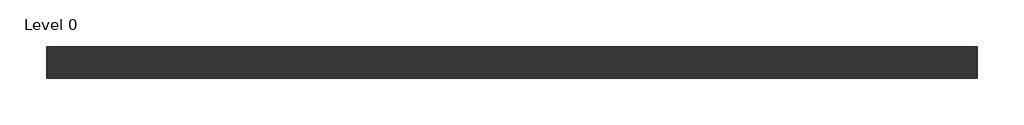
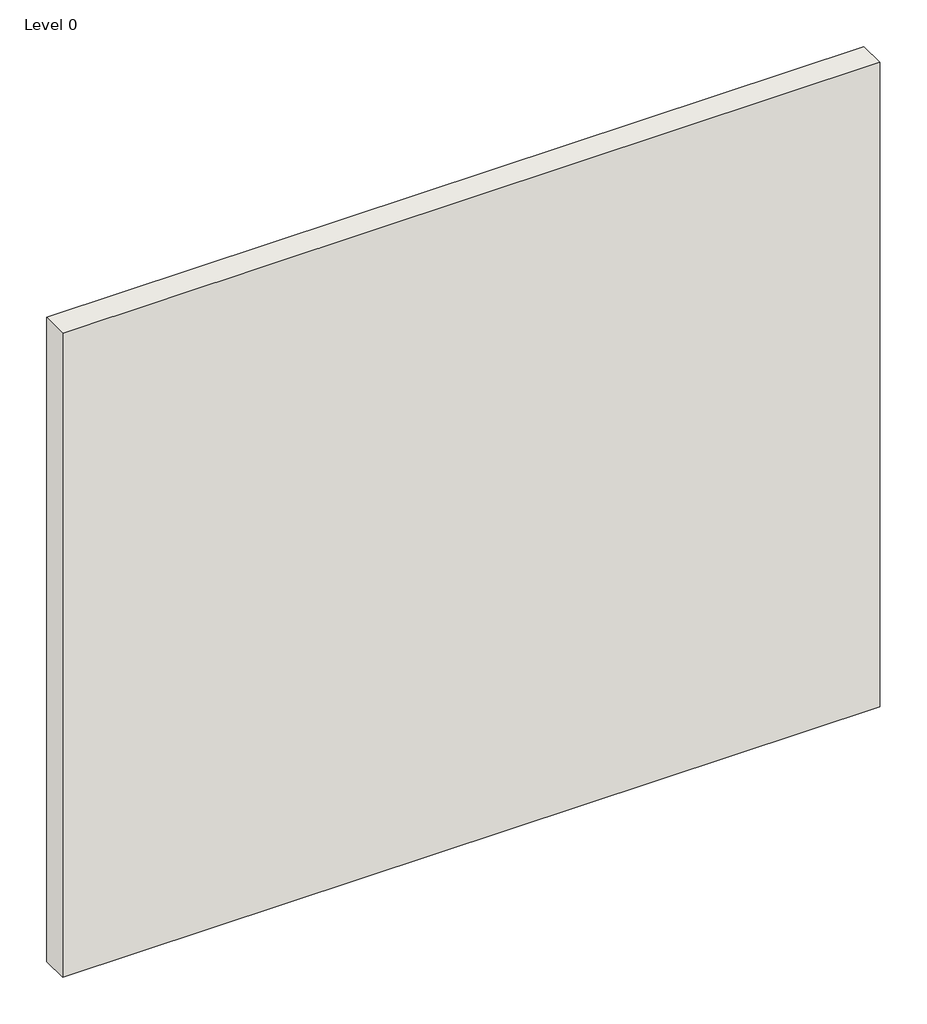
# One storey: 1 wall.
"""IFC4 building model written with IfcOpenShell, lengths in millimetres."""

from ifc_helpers import new_model, si_unit, origin, origin_with_axes, place, context, project, spatial, polyline, outline, extrude, element, save

model = new_model("IFC4")

# Units and contexts
model_context = context("Model", 3, world=origin())
ifc_project = project(units=[si_unit("LENGTHUNIT", "METRE", prefix="MILLI")], contexts=[model_context])

# Site, building, storey
site = spatial("IfcSite", under=ifc_project)
building = spatial("IfcBuilding", under=site)
storey = spatial("IfcBuildingStorey", under=building, Name="Level 0", Elevation=0.0)

# Wall
placement = place(None, origin())
element("IfcWall", 1, ObjectType="A306003 (b) - ShaftWall", at=placement, inside=storey, context=model_context, shape_type="SweptSolid", body=[
    extrude(outline(polyline([(2405.1281168, 542.7205641), (-594.8718832, 542.7205641), (-594.8718832, 644.7205641), (2405.1281168, 644.7205641), (2405.1281168, 542.7205641)])), origin_with_axes(), (0.0, 0.0, 1.0), 2500.0),
])

save(model, "model.ifc")
